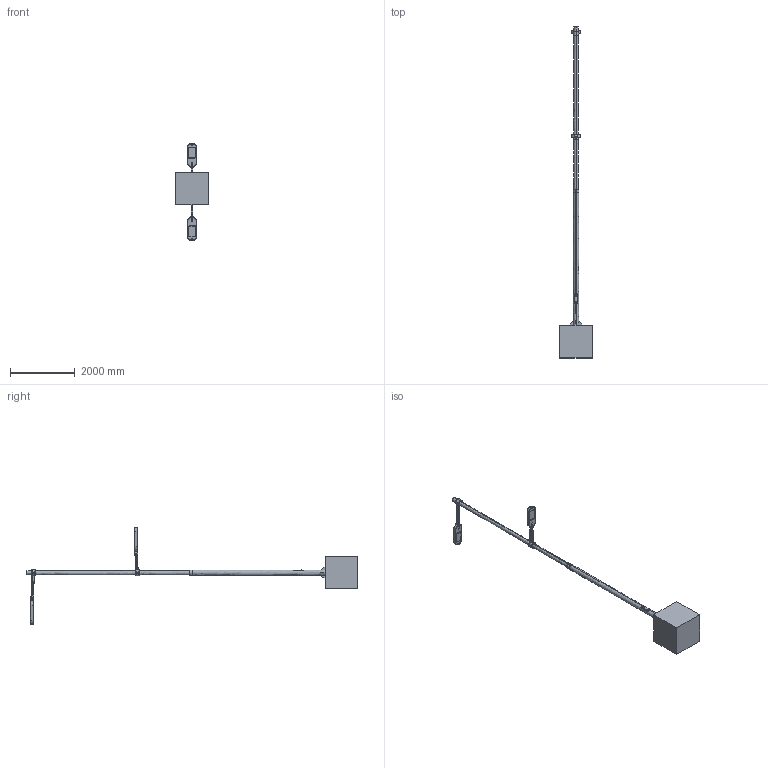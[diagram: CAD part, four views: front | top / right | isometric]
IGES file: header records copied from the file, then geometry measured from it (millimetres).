
Start section: SolidWorks IGES file using analytic representation for surfaces
Global section: file name: C:\SANTACOLE_PDM\Proyectos Catálogo\PROD-P11_014 -- CANDELA LED\6_Técnico comercial\3D WEB\IGES\Farola Candela LED 920cm 2S 2L DISTINTA ALTURA BRAZO MEDIO BRAZO CORTO.IGS; native system: SolidWorks 2013; preprocessor: SolidWorks 2013; author: jordi.munoz; date: 150527.164927; units: millimetre
Bounding box: 1000 x 10224.5 x 3002.79 mm (x, y, z)
Surface area: 18358484.7 mm2 (no closed solid volume)
Topology: 0 solids, 0 shells, 4039 faces, 38713 edges, 38662 vertices
Faces by surface type: bspline 2842, revolution 1197
